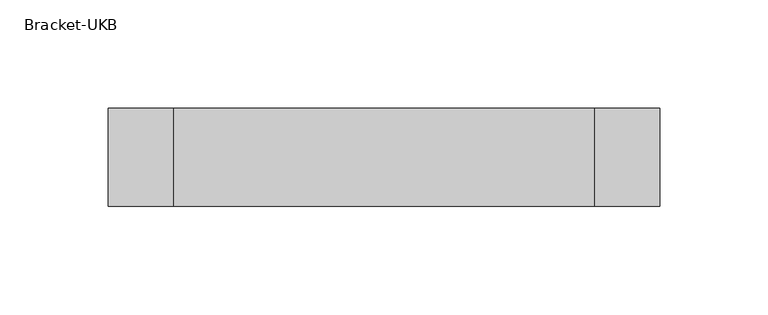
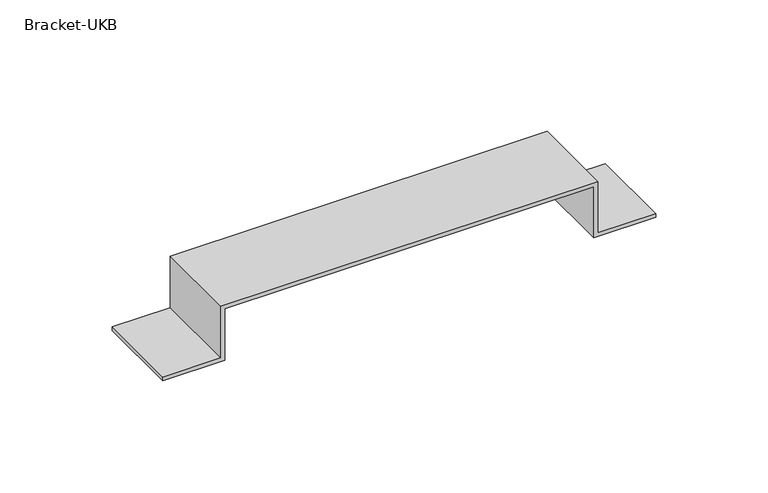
"""IFC4 building model written with IfcOpenShell, lengths in millimetres: cable carrier fitting geometry, Electrical-Installations_Hager_Bracket-UKB : Bracket-UKB."""

from ifc_helpers import new_model, si_unit, frame, origin, place, context, project, spatial, polyline, outline, extrude, source, transform, mapped, element, save


def bracket_ukb_5e2ba21c(model_context):
    return source(origin(), model_context, "Body", "SweptSolid", [
        extrude(outline(polyline([(0.0, -127.0), (0.0, -95.0), (28.0, -95.0), (28.0, 95.0), (0.0, 95.0), (0.0, 127.0), (2.0, 127.0), (2.0, 97.0), (30.0, 97.0), (30.0, -97.0), (2.0, -97.0), (2.0, -127.0), (0.0, -127.0)])), frame((0.0, -22.5, 0.0), z_axis=(0.0, 1.0, 0.0), x_axis=(0.0, 0.0, 1.0)), (0.0, 0.0, 1.0), 45.0),
    ])


if __name__ == "__main__":
    model = new_model("IFC4")
    model_context = context("Model", 3, world=origin())
    ifc_project = project(units=[si_unit("LENGTHUNIT", "METRE", prefix="MILLI")], contexts=[model_context])
    site = spatial("IfcSite", under=ifc_project)
    building = spatial("IfcBuilding", under=site)
    placement = place(None, origin())
    bracket_ukb_shape = bracket_ukb_5e2ba21c(model_context)
    element("IfcCableCarrierFitting", 1, ObjectType="Electrical-Installations_Hager_Bracket-UKB : Bracket-UKB", at=placement, inside=building, context=model_context, shape_type="MappedRepresentation", body=[
        mapped(bracket_ukb_shape, transform((0.0, 0.0, 0.0), x_axis=(1.0, 0.0, 0.0), y_axis=(0.0, 1.0, 0.0), z_axis=(0.0, 0.0, 1.0))),
    ])
    save(model, "model.ifc")
